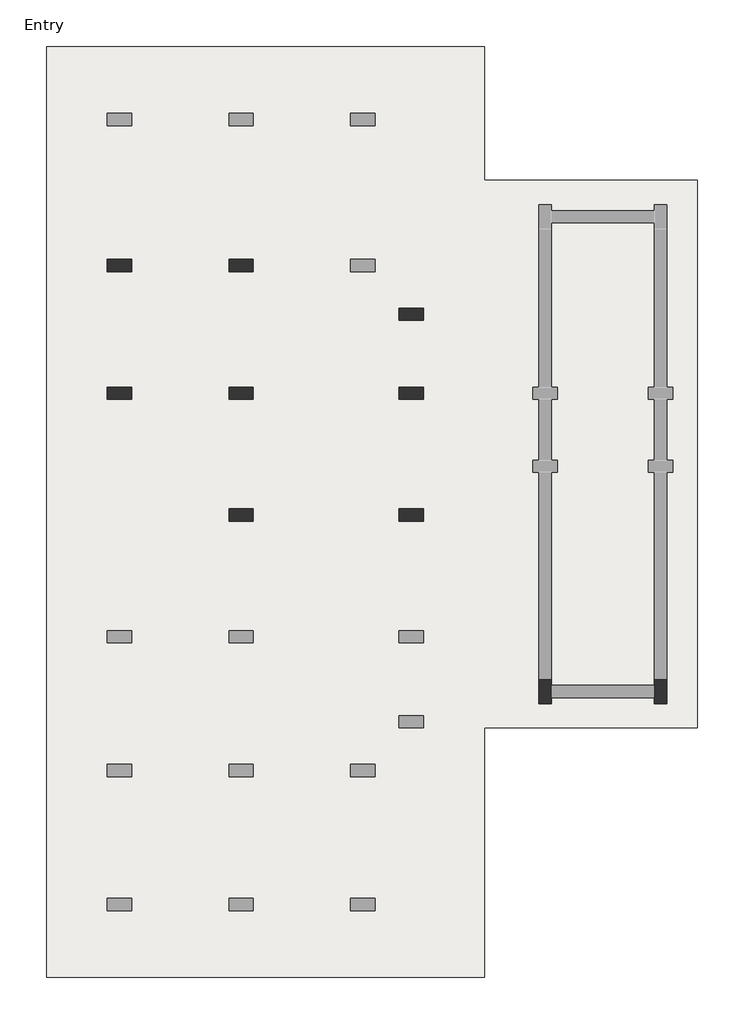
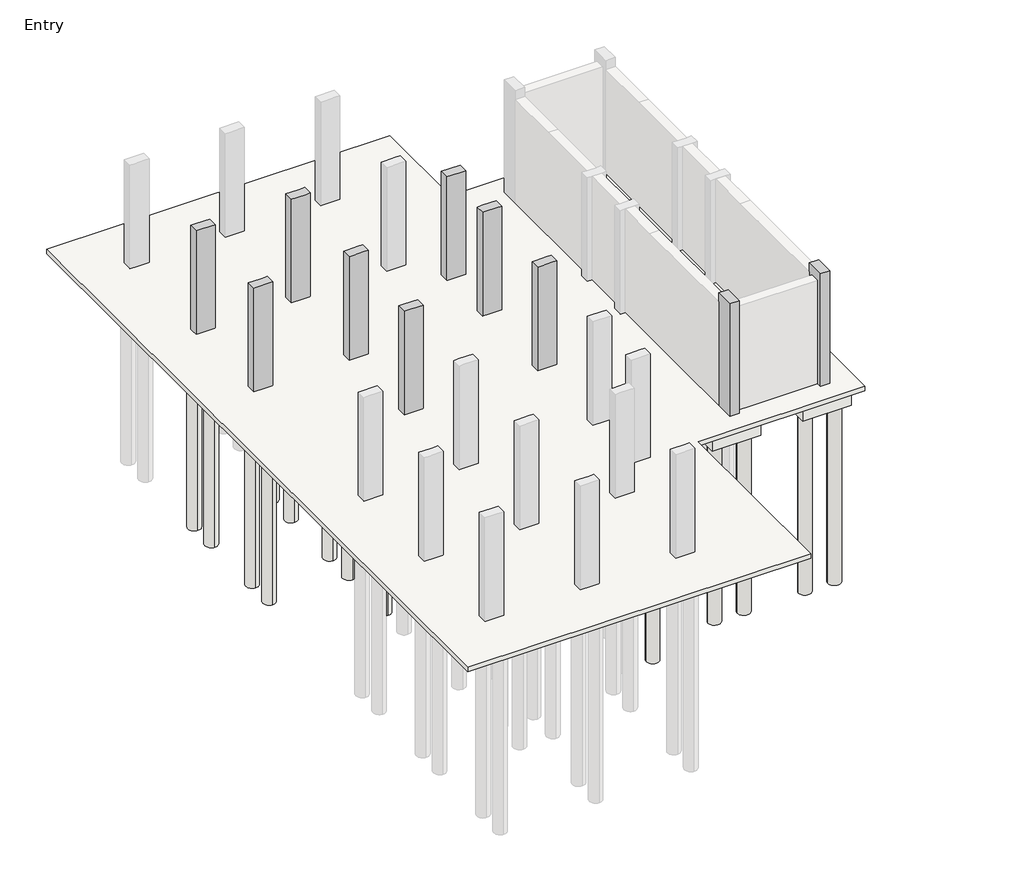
# One storey, part 2 of 3: 35 slabs, 10 columns, 3 footings.
"""IFC4 building model written with IfcOpenShell, lengths in millimetres."""

import ifcopenshell
import ifcopenshell.guid

model = None  # the IFC model being written
_history = None  # IfcOwnerHistory: only IFC2X3 demands one
_inside = {}  # id of a spatial element -> (the spatial element, [elements in it])
_under = {}  # id of a project, library or spatial element -> (it, [spatial elements below it])
_declared = {}  # id of a project -> (the project, [libraries it declares])
_typed = {}  # id of a type object -> (the type object, [elements of that type])
_made_of = {}  # id of a material, layer set ... -> (it, [elements and type objects made of it])


def new_model(schema):
    """Start an empty IFC model of exactly this schema.

    Asked for "IFC4X3", IfcOpenShell would pick the latest addendum, in which some entities
    have other attributes; the version numbers below select the first issue.
    IFC2X3 requires an IfcOwnerHistory on every rooted entity: one is made here for all.
    """
    global model, _history
    if schema == "IFC4X3":
        model = ifcopenshell.file(schema_version=(4, 3, 0, 0))
    else:
        model = ifcopenshell.file(schema=schema)
    _inside.clear()
    _under.clear()
    _declared.clear()
    _typed.clear()
    _made_of.clear()
    _history = None
    if model.schema == "IFC2X3":
        org = make("IfcOrganization", Name="unknown")
        user = make(
            "IfcPersonAndOrganization",
            ThePerson=make("IfcPerson", FamilyName="unknown"),
            TheOrganization=org,
        )
        app = make(
            "IfcApplication",
            ApplicationDeveloper=org,
            Version="unknown",
            ApplicationFullName="unknown",
            ApplicationIdentifier="unknown",
        )
        _history = make(
            "IfcOwnerHistory",
            OwningUser=user,
            OwningApplication=app,
            ChangeAction="ADDED",
            CreationDate=0,
        )
    return model


def make(cls, **values):
    """One entity of the class cls with the attributes given. An attribute that is None is left unset."""
    return model.create_entity(
        cls, **{name: value for name, value in values.items() if value is not None}
    )


def rooted(cls, **values):
    """An entity with a GlobalId (a new one), such as an element, a storey or a relation."""
    return make(cls, GlobalId=ifcopenshell.guid.new(), OwnerHistory=_history, **values)


def si_unit(unit_type, name, prefix=None):
    """IfcSIUnit, for example si_unit("LENGTHUNIT", "METRE", prefix="MILLI")."""
    return make("IfcSIUnit", UnitType=unit_type, Prefix=prefix, Name=name)


def assignment(units):
    """IfcUnitAssignment: the units of a project."""
    return None if units is None else make("IfcUnitAssignment", Units=units)


def point(xyz):
    """IfcCartesianPoint."""
    return None if xyz is None else make("IfcCartesianPoint", Coordinates=xyz)


def direction(xyz):
    """IfcDirection."""
    return None if xyz is None else make("IfcDirection", DirectionRatios=xyz)


def frame(location, z_axis=None, x_axis=None):
    """IfcAxis2Placement3D, a coordinate frame: its origin and axes. An axis left out is left unset."""
    return make(
        "IfcAxis2Placement3D",
        Location=point(location),
        Axis=direction(z_axis),
        RefDirection=direction(x_axis),
    )


def frame_2d(location, x_axis=None):
    """IfcAxis2Placement2D, a coordinate frame in the plane: its origin and x axis."""
    return make(
        "IfcAxis2Placement2D", Location=point(location), RefDirection=direction(x_axis)
    )


def origin():
    """The frame at (0, 0, 0) with its axes left unset."""
    return frame((0.0, 0.0, 0.0))


def place(relative_to, where):
    """IfcLocalPlacement: puts the frame where relative to a parent placement (None: the world)."""
    return make(
        "IfcLocalPlacement", PlacementRelTo=relative_to, RelativePlacement=where
    )


def context(
    kind, dimensions, precision=None, world=None, true_north=None, identifier=None
):
    """IfcGeometricRepresentationContext, for example the 3D "Model" context."""
    return make(
        "IfcGeometricRepresentationContext",
        ContextIdentifier=identifier,
        ContextType=kind,
        CoordinateSpaceDimension=dimensions,
        Precision=precision,
        WorldCoordinateSystem=world,
        TrueNorth=true_north,
    )


def project(units=None, contexts=None):
    """IfcProject with its units and contexts."""
    return rooted(
        "IfcProject",
        Name="project",
        RepresentationContexts=contexts,
        UnitsInContext=assignment(units),
    )


def spatial(cls, under=None, at=None, **own):
    """A site, building, storey or space (cls), placed at a placement, below another one or the project."""
    s = rooted(cls, ObjectPlacement=at, **own)
    if under is not None:
        _under.setdefault(under.id(), (under, []))[1].append(s)
    return s


def polyline(points):
    """IfcPolyline through the points."""
    return make("IfcPolyline", Points=[point(p) for p in points])


def circle_curve(where, radius):
    """IfcCircle in the frame where."""
    return make("IfcCircle", Position=where, Radius=radius)


def trimmed(basis, trim1, trim2, sense, master):
    """IfcTrimmedCurve: the piece of a basis curve between two trims."""
    return make(
        "IfcTrimmedCurve",
        BasisCurve=basis,
        Trim1=trim1,
        Trim2=trim2,
        SenseAgreement=sense,
        MasterRepresentation=master,
    )


def segment(curve, same_sense, transition):
    """IfcCompositeCurveSegment."""
    return make(
        "IfcCompositeCurveSegment",
        Transition=transition,
        SameSense=same_sense,
        ParentCurve=curve,
    )


def composite_curve(segments, self_intersect=None):
    """IfcCompositeCurve: segments joined end to end."""
    return make("IfcCompositeCurve", Segments=segments, SelfIntersect=self_intersect)


def outline(outer, holes=None, kind="AREA"):
    """IfcArbitraryClosedProfileDef: a profile drawn as a closed curve; with holes, ...WithVoids."""
    if holes is None:
        return make("IfcArbitraryClosedProfileDef", ProfileType=kind, OuterCurve=outer)
    return make(
        "IfcArbitraryProfileDefWithVoids",
        ProfileType=kind,
        OuterCurve=outer,
        InnerCurves=holes,
    )


def extrude(swept, where, along, depth):
    """IfcExtrudedAreaSolid: the profile swept, set in the frame where, extruded along a direction by depth."""
    return make(
        "IfcExtrudedAreaSolid",
        SweptArea=swept,
        Position=where,
        ExtrudedDirection=direction(along),
        Depth=depth,
    )


def faces_of(points, faces, orient=None, outer=None):
    """IfcFace entities. A face is a list of loops; a loop is a list of indices into points, from 0.

    orient and outer hold one flag for each loop. By default every Orientation is true, the
    first loop of a face is its IfcFaceOuterBound and the others are IfcFaceBound.
    """
    made = []
    for i, loops in enumerate(faces):
        bounds = []
        for j, loop in enumerate(loops):
            is_outer = j == 0 if outer is None else outer[i][j]
            bounds.append(
                make(
                    "IfcFaceOuterBound" if is_outer else "IfcFaceBound",
                    Bound=make("IfcPolyLoop", Polygon=[points[k] for k in loop]),
                    Orientation=True if orient is None else orient[i][j],
                )
            )
        made.append(make("IfcFace", Bounds=bounds))
    return made


def faceted_brep(points, faces, orient=None, outer=None, voids=None):
    """IfcFacetedBrep: a solid bounded by flat faces; with voids (closed shells), ...WithVoids."""
    shared = [point(p) for p in points]
    hull = make("IfcClosedShell", CfsFaces=faces_of(shared, faces, orient, outer))
    if voids is None:
        return make("IfcFacetedBrep", Outer=hull)
    return make(
        "IfcFacetedBrepWithVoids",
        Outer=hull,
        Voids=[
            make(cls, CfsFaces=faces_of(shared, fs, o, b)) for cls, fs, o, b in voids
        ],
    )


def shape(context_of_items, identifier, shape_type, items):
    """IfcShapeRepresentation: the items that make up one representation, for example the "Body"."""
    return make(
        "IfcShapeRepresentation",
        ContextOfItems=context_of_items,
        RepresentationIdentifier=identifier,
        RepresentationType=shape_type,
        Items=items,
    )


def made_of(thing, what):
    """Note that an element or type object is made of a material, layer set ...; save() writes the relation."""
    if what is not None:
        _made_of.setdefault(what.id(), (what, []))[1].append(thing)
    return thing


def element(
    cls,
    number,
    at=None,
    inside=None,
    cuts=None,
    type_object=None,
    material=None,
    context=None,
    identifier="Body",
    shape_type=None,
    held_by="IfcProductDefinitionShape",
    body=None,
    shapes=None,
    **own,
):
    """One element of the class cls, such as IfcWall. Its Tag is "e" and its number.

    at: its placement. inside: the storey or other place that contains it. cuts: it is an
    opening in that element (IfcRelVoidsElement). A single representation is given by context,
    identifier, shape_type and body (its items); several are given by shapes. held_by: the class
    of the entity that holds the representations. save() writes the other relations.
    """
    e = rooted(cls, Tag="e%d" % number, ObjectPlacement=at, **own)
    if body is not None:
        shapes = [shape(context, identifier, shape_type, body)]
    if shapes is not None:
        e.Representation = make(held_by, Representations=shapes)
    if inside is not None:
        _inside.setdefault(inside.id(), (inside, []))[1].append(e)
    if cuts is not None:
        rooted(
            "IfcRelVoidsElement", RelatingBuildingElement=cuts, RelatedOpeningElement=e
        )
    if type_object is not None:
        _typed.setdefault(type_object.id(), (type_object, []))[1].append(e)
    return made_of(e, material)


def aggregate(whole, parts):
    """IfcRelAggregates: a whole, such as a stair, and the parts it consists of."""
    return rooted("IfcRelAggregates", RelatingObject=whole, RelatedObjects=parts)


def save(model, path):
    """Write the relations noted so far, then the file.

    IfcRelAggregates (storeys below a building ...), IfcRelContainedInSpatialStructure (elements
    in a storey), IfcRelDefinesByType, IfcRelAssociatesMaterial and IfcRelDeclares: one each for
    every whole, place, type object, material and project.
    """
    for whole, parts in _under.values():
        aggregate(whole, parts)
    for where, things in _inside.values():
        rooted(
            "IfcRelContainedInSpatialStructure",
            RelatedElements=things,
            RelatingStructure=where,
        )
    for kind, things in _typed.values():
        rooted("IfcRelDefinesByType", RelatedObjects=things, RelatingType=kind)
    for what, things in _made_of.values():
        rooted("IfcRelAssociatesMaterial", RelatedObjects=things, RelatingMaterial=what)
    for by, libraries in _declared.values():
        rooted("IfcRelDeclares", RelatingContext=by, RelatedDefinitions=libraries)
    model.write(path)


model = new_model("IFC4")

# Units and contexts
model_context = context("Model", 3, world=origin())
ifc_project = project(units=[si_unit("LENGTHUNIT", "METRE", prefix="MILLI")], contexts=[model_context])

# Site, building, storey
site = spatial("IfcSite", under=ifc_project)
building = spatial("IfcBuilding", under=site)
storey = spatial("IfcBuildingStorey", under=building, Name="Entry", Elevation=0.0)

# Columns
placement = place(None, origin())
element("IfcColumn", 1, ObjectType="Concrete-Rectangular-Column : 12 x 24", at=placement, inside=storey, context=model_context, shape_type="Brep", body=[
    faceted_brep([(-15967.1663981, 6616.5487848, 0.0), (-15357.5663981, 6616.5487848, 0.0), (-15357.5663981, 6311.7487848, 0.0), (-15967.1663981, 6311.7487848, 0.0), (-15967.1663981, 6616.5487848, 3505.2), (-15814.7663981, 6616.5487848, 3505.2), (-15509.9663981, 6616.5487848, 3505.2), (-15357.5663981, 6616.5487848, 3505.2), (-15357.5663981, 6616.5487848, 2895.6), (-15357.5663981, 6311.7487848, 3505.2), (-15357.5663981, 6311.7487848, 2895.6), (-15509.9663981, 6311.7487848, 3505.2), (-15814.7663981, 6311.7487848, 3505.2), (-15967.1663981, 6311.7487848, 3505.2)], [[[0, 1, 2, 3]], [[4, 5, 6, 7, 8, 1, 0]], [[7, 9, 10, 2, 1, 8]], [[9, 11, 12, 13, 3, 2, 10]], [[13, 4, 0, 3]], [[4, 13, 12, 11, 9, 7, 6, 5]]]),
])
element("IfcColumn", 2, ObjectType="Concrete-Rectangular-Column : 12 x 24", at=placement, inside=storey, context=model_context, shape_type="Brep", body=[
    faceted_brep([(-15967.1663981, 3416.1487848, 0.0), (-15357.5663981, 3416.1487848, 0.0), (-15357.5663981, 3111.3487848, 0.0), (-15967.1663981, 3111.3487848, 0.0), (-15967.1663981, 3416.1487848, 3505.2), (-15814.7663981, 3416.1487848, 3505.2), (-15509.9663981, 3416.1487848, 3505.2), (-15357.5663981, 3416.1487848, 3505.2), (-15357.5663981, 3416.1487848, 2895.6), (-15357.5663981, 3111.3487848, 3505.2), (-15357.5663981, 3111.3487848, 2895.6), (-15967.1663981, 3111.3487848, 3505.2)], [[[0, 1, 2, 3]], [[4, 5, 6, 7, 8, 1, 0]], [[7, 9, 10, 2, 1, 8]], [[9, 11, 3, 2, 10]], [[11, 4, 0, 3]], [[4, 11, 9, 7, 6, 5]]]),
])
element("IfcColumn", 3, ObjectType="Concrete-Rectangular-Column : 12 x 24", at=placement, inside=storey, context=model_context, shape_type="Brep", body=[
    faceted_brep([(-12919.1663981, 368.1487848, 0.0), (-12309.5663981, 368.1487848, 0.0), (-12309.5663981, 63.3487848, 0.0), (-12919.1663981, 63.3487848, 0.0), (-12919.1663981, 368.1487848, 3505.2), (-12766.7663981, 368.1487848, 3505.2), (-12461.9663981, 368.1487848, 3505.2), (-12309.5663981, 368.1487848, 3505.2), (-12309.5663981, 368.1487848, 2895.6), (-12309.5663981, 63.3487848, 3505.2), (-12309.5663981, 63.3487848, 2895.6), (-12461.9663981, 63.3487848, 3505.2), (-12766.7663981, 63.3487848, 3505.2), (-12919.1663981, 63.3487848, 3505.2)], [[[0, 1, 2, 3]], [[4, 5, 6, 7, 8, 1, 0]], [[7, 9, 10, 2, 1, 8]], [[9, 11, 12, 13, 3, 2, 10]], [[13, 4, 0, 3]], [[4, 13, 12, 11, 9, 7, 6, 5]]]),
])
element("IfcColumn", 4, ObjectType="Concrete-Rectangular-Column : 12 x 24", at=placement, inside=storey, context=model_context, shape_type="Brep", body=[
    faceted_brep([(-12919.1663981, 3416.1487848, 0.0), (-12309.5663981, 3416.1487848, 0.0), (-12309.5663981, 3111.3487848, 0.0), (-12919.1663981, 3111.3487848, 0.0), (-12919.1663981, 3416.1487848, 3505.2), (-12766.7663981, 3416.1487848, 3505.2), (-12461.9663981, 3416.1487848, 3505.2), (-12309.5663981, 3416.1487848, 3505.2), (-12309.5663981, 3416.1487848, 2895.6), (-12919.1663981, 3416.1487848, 2895.6), (-12309.5663981, 3111.3487848, 3505.2), (-12309.5663981, 3111.3487848, 2895.6), (-12461.9663981, 3111.3487848, 3505.2), (-12766.7663981, 3111.3487848, 3505.2), (-12919.1663981, 3111.3487848, 3505.2), (-12919.1663981, 3111.3487848, 2895.6)], [[[0, 1, 2, 3]], [[4, 5, 6, 7, 8, 1, 0, 9]], [[7, 10, 11, 2, 1, 8]], [[10, 12, 13, 14, 15, 3, 2, 11]], [[14, 4, 9, 0, 3, 15]], [[4, 14, 13, 12, 10, 7, 6, 5]]]),
])
element("IfcColumn", 5, ObjectType="Concrete-Rectangular-Column : 12 x 24", at=placement, inside=storey, context=model_context, shape_type="Brep", body=[
    faceted_brep([(-12919.1663981, 6616.5487848, 0.0), (-12309.5663981, 6616.5487848, 0.0), (-12309.5663981, 6311.7487848, 0.0), (-12919.1663981, 6311.7487848, 0.0), (-12919.1663981, 6616.5487848, 3505.2), (-12766.7663981, 6616.5487848, 3505.2), (-12461.9663981, 6616.5487848, 3505.2), (-12309.5663981, 6616.5487848, 3505.2), (-12309.5663981, 6616.5487848, 2895.6), (-12919.1663981, 6616.5487848, 2895.6), (-12309.5663981, 6311.7487848, 3505.2), (-12309.5663981, 6311.7487848, 2895.6), (-12461.9663981, 6311.7487848, 3505.2), (-12766.7663981, 6311.7487848, 3505.2), (-12919.1663981, 6311.7487848, 3505.2), (-12919.1663981, 6311.7487848, 2895.6)], [[[0, 1, 2, 3]], [[4, 5, 6, 7, 8, 1, 0, 9]], [[7, 10, 11, 2, 1, 8]], [[10, 12, 13, 14, 15, 3, 2, 11]], [[14, 4, 9, 0, 3, 15]], [[4, 14, 13, 12, 10, 7, 6, 5]]]),
])
element("IfcColumn", 6, ObjectType="Concrete-Rectangular-Column : 12 x 24", at=placement, inside=storey, context=model_context, shape_type="Brep", body=[
    faceted_brep([(-8651.9663981, 5397.3487848, 0.0), (-8042.3663981, 5397.3487848, 0.0), (-8042.3663981, 5092.5487848, 0.0), (-8651.9663981, 5092.5487848, 0.0), (-8651.9663981, 5397.3487848, 3505.2), (-8042.3663981, 5397.3487848, 3505.2), (-8651.9663981, 5397.3487848, 2895.6), (-8042.3663981, 5092.5487848, 3505.2), (-8194.7663981, 5092.5487848, 3505.2), (-8499.5663981, 5092.5487848, 3505.2), (-8651.9663981, 5092.5487848, 3505.2), (-8651.9663981, 5092.5487848, 2895.6)], [[[0, 1, 2, 3]], [[4, 5, 1, 0, 6]], [[5, 7, 2, 1]], [[7, 8, 9, 10, 11, 3, 2]], [[10, 4, 6, 0, 3, 11]], [[4, 10, 9, 8, 7, 5]]]),
])
element("IfcColumn", 7, ObjectType="Concrete-Rectangular-Column : 12 x 24", at=placement, inside=storey, context=model_context, shape_type="Brep", body=[
    faceted_brep([(-8651.9663981, 3416.1487848, 0.0), (-8042.3663981, 3416.1487848, 0.0), (-8042.3663981, 3111.3487848, 0.0), (-8651.9663981, 3111.3487848, 0.0), (-8651.9663981, 3416.1487848, 3505.2), (-8499.5663981, 3416.1487848, 3505.2), (-8194.7663981, 3416.1487848, 3505.2), (-8042.3663981, 3416.1487848, 3505.2), (-8042.3663981, 3416.1487848, 2895.6), (-8651.9663981, 3416.1487848, 2895.6), (-8042.3663981, 3111.3487848, 3505.2), (-8042.3663981, 3111.3487848, 2895.6), (-8194.7663981, 3111.3487848, 3505.2), (-8499.5663981, 3111.3487848, 3505.2), (-8651.9663981, 3111.3487848, 3505.2), (-8651.9663981, 3111.3487848, 2895.6)], [[[0, 1, 2, 3]], [[4, 5, 6, 7, 8, 1, 0, 9]], [[7, 10, 11, 2, 1, 8]], [[10, 12, 13, 14, 15, 3, 2, 11]], [[14, 4, 9, 0, 3, 15]], [[4, 14, 13, 12, 10, 7, 6, 5]]]),
])
element("IfcColumn", 8, ObjectType="Concrete-Rectangular-Column : 12 x 24", at=placement, inside=storey, context=model_context, shape_type="Brep", body=[
    faceted_brep([(-8651.9663981, 368.1487848, 0.0), (-8042.3663981, 368.1487848, 0.0), (-8042.3663981, 63.3487848, 0.0), (-8651.9663981, 63.3487848, 0.0), (-8651.9663981, 368.1487848, 3505.2), (-8499.5663981, 368.1487848, 3505.2), (-8194.7663981, 368.1487848, 3505.2), (-8042.3663981, 368.1487848, 3505.2), (-8651.9663981, 368.1487848, 2895.6), (-8042.3663981, 63.3487848, 3505.2), (-8194.7663981, 63.3487848, 3505.2), (-8499.5663981, 63.3487848, 3505.2), (-8651.9663981, 63.3487848, 3505.2), (-8651.9663981, 63.3487848, 2895.6)], [[[0, 1, 2, 3]], [[4, 5, 6, 7, 1, 0, 8]], [[7, 9, 2, 1]], [[9, 10, 11, 12, 13, 3, 2]], [[12, 4, 8, 0, 3, 13]], [[4, 12, 11, 10, 9, 7, 6, 5]]]),
])
element("IfcColumn", 9, ObjectType="Concrete-Rectangular-Column : 12 x 24", at=placement, inside=storey, context=model_context, shape_type="Brep", body=[
    faceted_brep([(-5146.7663981, -4508.6512152, 0.0), (-5146.7663981, -3899.0512152, 0.0), (-4841.9663981, -3899.0512152, 0.0), (-4841.9663981, -4051.4512152, 0.0), (-4841.9663981, -4356.2512152, 0.0), (-4841.9663981, -4508.6512152, 0.0), (-5146.7663981, -4508.6512152, 3810.0), (-5146.7663981, -3899.0512152, 3810.0), (-5146.7663981, -3899.0512152, 3505.2), (-4841.9663981, -3899.0512152, 3810.0), (-4841.9663981, -3899.0512152, 3505.2), (-4841.9663981, -4508.6512152, 3810.0)], [[[0, 1, 2, 3, 4, 5]], [[6, 7, 8, 1, 0]], [[7, 9, 10, 2, 1, 8]], [[9, 11, 5, 4, 3, 2, 10]], [[11, 6, 0, 5]], [[6, 11, 9, 7]]]),
])
element("IfcColumn", 10, ObjectType="Concrete-Rectangular-Column : 12 x 24", at=placement, inside=storey, context=model_context, shape_type="Brep", body=[
    faceted_brep([(-2251.1663981, -4508.6512152, 0.0), (-2251.1663981, -4356.2512152, 0.0), (-2251.1663981, -4051.4512152, 0.0), (-2251.1663981, -3899.0512152, 0.0), (-1946.3663981, -3899.0512152, 0.0), (-1946.3663981, -4508.6512152, 0.0), (-2251.1663981, -4508.6512152, 3810.0), (-2251.1663981, -3899.0512152, 3810.0), (-2251.1663981, -3899.0512152, 3505.2), (-1946.3663981, -3899.0512152, 3810.0), (-1946.3663981, -3899.0512152, 3505.2), (-1946.3663981, -4508.6512152, 3810.0)], [[[0, 1, 2, 3, 4, 5]], [[6, 7, 8, 3, 2, 1, 0]], [[7, 9, 10, 4, 3, 8]], [[9, 11, 5, 4, 10]], [[11, 6, 0, 5]], [[6, 11, 9, 7]]]),
])

# Footings
element("IfcFooting", 11, ObjectType="Bearing Footing - 36\" x 12\"", at=placement, inside=storey, context=model_context, shape_type="Brep", body=[
    faceted_brep([(-5400.7663981, 1282.5487848, -304.8), (-5451.5663981, 1282.5487848, -304.8), (-5451.5663981, 1282.5487848, -152.4), (-5400.7663981, 1282.5487848, -152.4), (-4537.1663981, 1282.5487848, -304.8), (-4587.9663981, 1282.5487848, -304.8), (-4587.9663981, 1282.5487848, -152.4), (-4537.1663981, 1282.5487848, -152.4), (-4537.1663981, -3797.4512152, -304.8), (-4537.1663981, -3746.6512152, -304.8), (-4537.1663981, -3746.6512152, -152.4), (-4537.1663981, -3797.4512152, -152.4), (-5400.7663981, 660.2487848, -304.8), (-4587.9663981, 660.2487848, -304.8), (-5451.5663981, -3797.4512152, -304.8), (-5451.5663981, -3797.4512152, -152.4), (-5400.7663981, 660.2487848, -152.4), (-4587.9663981, 660.2487848, -152.4)], [[[0, 1, 2, 3]], [[4, 5, 6, 7]], [[8, 9, 4, 7, 10, 11]], [[1, 0, 12, 13, 5, 4, 9, 8, 14]], [[1, 14, 15, 2]], [[12, 0, 3, 16]], [[13, 12, 16, 17]], [[5, 13, 17, 6]], [[14, 8, 11, 15]], [[7, 6, 17, 16, 3, 2, 15, 11, 10]]]),
])
element("IfcFooting", 12, ObjectType="Bearing Footing - 36\" x 12\"", at=placement, inside=storey, context=model_context, shape_type="Brep", body=[
    faceted_brep([(-2505.1663981, 1282.5487848, -304.8), (-2555.9663981, 1282.5487848, -304.8), (-2555.9663981, 1282.5487848, -152.4), (-2505.1663981, 1282.5487848, -152.4), (-1641.5663981, 1282.5487848, -304.8), (-1692.3663981, 1282.5487848, -304.8), (-1692.3663981, 1282.5487848, -152.4), (-1641.5663981, 1282.5487848, -152.4), (-1641.5663981, -3797.4512152, -304.8), (-1641.5663981, -3797.4512152, -152.4), (-2505.1663981, 660.2487848, -304.8), (-1692.3663981, 660.2487848, -304.8), (-2555.9663981, -3797.4512152, -304.8), (-2555.9663981, -3746.6512152, -304.8), (-2555.9663981, -3797.4512152, -152.4), (-2555.9663981, -3746.6512152, -152.4), (-2505.1663981, 660.2487848, -152.4), (-1692.3663981, 660.2487848, -152.4)], [[[0, 1, 2, 3]], [[4, 5, 6, 7]], [[8, 4, 7, 9]], [[1, 0, 10, 11, 5, 4, 8, 12, 13]], [[1, 13, 12, 14, 15, 2]], [[10, 0, 3, 16]], [[11, 10, 16, 17]], [[5, 11, 17, 6]], [[12, 8, 9, 14]], [[7, 6, 17, 16, 3, 2, 15, 14, 9]]]),
])
element("IfcFooting", 13, ObjectType="Bearing Footing - 36\" x 12\"", at=placement, inside=storey, context=model_context, shape_type="SweptSolid", body=[
    extrude(outline(polyline([(-2251.1663981, -4661.0512152), (-4841.9663981, -4661.0512152), (-4841.9663981, -4610.2512152), (-4219.6663981, -4610.2512152), (-4219.6663981, -3797.4512152), (-4537.1663981, -3797.4512152), (-4537.1663981, -3746.6512152), (-2555.9663981, -3746.6512152), (-2555.9663981, -3797.4512152), (-2873.4663981, -3797.4512152), (-2873.4663981, -4610.2512152), (-2251.1663981, -4610.2512152), (-2251.1663981, -4661.0512152)])), frame((0.0, 0.0, -304.8), z_axis=(0.0, 0.0, 1.0), x_axis=(1.0, 0.0, 0.0)), (0.0, 0.0, 1.0), 152.4),
])

# Slabs
element("IfcSlab", 14, ObjectType="6\" Foundation Slab", at=placement, inside=storey, context=model_context, shape_type="SweptSolid", body=[
    extrude(outline(polyline([(-6518.3663981, 11950.5487848), (-6518.3663981, 8597.7487848), (-1184.3663981, 8597.7487848), (-1184.3663981, -5118.2512152), (-6518.3663981, -5118.2512152), (-6518.3663981, -11366.6512152), (-17491.1663981, -11366.6512152), (-17491.1663981, 11950.5487848), (-6518.3663981, 11950.5487848)])), frame((0.0, 0.0, -152.4), z_axis=(0.0, 0.0, 1.0), x_axis=(1.0, 0.0, 0.0)), (0.0, 0.0, 1.0), 152.4),
])
element("IfcSlab", 15, ObjectType="Pile Cap-2 Pile : 31\"x61\"x35\"", at=placement, inside=storey, context=model_context, shape_type="SweptSolid", body=[
    extrude(outline(polyline([(-16068.7663981, 7238.8487848), (-15255.9663981, 7238.8487848), (-15255.9663981, 5689.4487848), (-16068.7663981, 5689.4487848), (-16068.7663981, 7238.8487848)])), frame((0.0, 0.0, -889.0), z_axis=(0.0, 0.0, 1.0), x_axis=(1.0, 0.0, 0.0)), (0.0, 0.0, 1.0), 736.6),
])
element("IfcSlab", 16, ObjectType="Pile Cap-2 Pile : 31\"x61\"x35\"", at=placement, inside=storey, context=model_context, shape_type="SweptSolid", body=[
    extrude(outline(polyline([(-16068.7663981, 4038.4487848), (-15255.9663981, 4038.4487848), (-15255.9663981, 2489.0487848), (-16068.7663981, 2489.0487848), (-16068.7663981, 4038.4487848)])), frame((0.0, 0.0, -889.0), z_axis=(0.0, 0.0, 1.0), x_axis=(1.0, 0.0, 0.0)), (0.0, 0.0, 1.0), 736.6),
])
element("IfcSlab", 17, ObjectType="Pile Cap-2 Pile : 31\"x61\"x35\"", at=placement, inside=storey, context=model_context, shape_type="SweptSolid", body=[
    extrude(outline(polyline([(-8753.5663981, 990.4487848), (-7940.7663981, 990.4487848), (-7940.7663981, -558.9512152), (-8753.5663981, -558.9512152), (-8753.5663981, 990.4487848)])), frame((0.0, 0.0, -889.0), z_axis=(0.0, 0.0, 1.0), x_axis=(1.0, 0.0, 0.0)), (0.0, 0.0, 1.0), 736.6),
])
element("IfcSlab", 18, ObjectType="Pile Cap-2 Pile : 31\"x61\"x35\"", at=placement, inside=storey, context=model_context, shape_type="SweptSolid", body=[
    extrude(outline(polyline([(-8753.5663981, 4038.4487848), (-7940.7663981, 4038.4487848), (-7940.7663981, 2489.0487848), (-8753.5663981, 2489.0487848), (-8753.5663981, 4038.4487848)])), frame((0.0, 0.0, -889.0), z_axis=(0.0, 0.0, 1.0), x_axis=(1.0, 0.0, 0.0)), (0.0, 0.0, 1.0), 736.6),
])
element("IfcSlab", 19, ObjectType="Pile Cap-2 Pile : 31\"x61\"x35\"", at=placement, inside=storey, context=model_context, shape_type="Brep", body=[
    faceted_brep([(-5769.0663981, -4610.2512152, -889.0), (-5769.0663981, -3797.4512152, -889.0), (-4219.6663981, -3797.4512152, -889.0), (-4219.6663981, -4610.2512152, -889.0), (-4219.6663981, -4610.2512152, -304.8), (-4219.6663981, -4610.2512152, -152.4), (-4841.9663981, -4610.2512152, -152.4), (-5769.0663981, -4610.2512152, -152.4), (-4219.6663981, -3797.4512152, -304.8), (-4219.6663981, -3797.4512152, -152.4), (-5769.0663981, -3797.4512152, -152.4), (-5451.5663981, -3797.4512152, -152.4), (-4537.1663981, -3797.4512152, -152.4)], [[[0, 1, 2, 3]], [[0, 3, 4, 5, 6, 7]], [[3, 2, 8, 9, 5, 4]], [[2, 1, 10, 11, 12, 9, 8]], [[1, 0, 7, 10]], [[7, 6, 5, 9, 12, 11, 10]]]),
])
element("IfcSlab", 20, ObjectType="Pile Cap-2 Pile : 31\"x61\"x35\"", at=placement, inside=storey, context=model_context, shape_type="Brep", body=[
    faceted_brep([(-2873.4663981, -4610.2512152, -889.0), (-2873.4663981, -3797.4512152, -889.0), (-1324.0663981, -3797.4512152, -889.0), (-1324.0663981, -4610.2512152, -889.0), (-1324.0663981, -4610.2512152, -152.4), (-2251.1663981, -4610.2512152, -152.4), (-2873.4663981, -4610.2512152, -152.4), (-2873.4663981, -4610.2512152, -304.8), (-1324.0663981, -3797.4512152, -152.4), (-2873.4663981, -3797.4512152, -304.8), (-2873.4663981, -3797.4512152, -152.4), (-2555.9663981, -3797.4512152, -152.4), (-1641.5663981, -3797.4512152, -152.4)], [[[0, 1, 2, 3]], [[0, 3, 4, 5, 6, 7]], [[3, 2, 8, 4]], [[2, 1, 9, 10, 11, 12, 8]], [[1, 0, 7, 6, 10, 9]], [[6, 5, 4, 8, 12, 11, 10]]]),
])
element("IfcSlab", 21, ObjectType="Pile Cap-2 Pile : 31\"x61\"x35\"", at=placement, inside=storey, context=model_context, shape_type="SweptSolid", body=[
    extrude(outline(polyline([(-9121.8663981, 4838.5487848), (-9121.8663981, 5651.3487848), (-7572.4663981, 5651.3487848), (-7572.4663981, 4838.5487848), (-9121.8663981, 4838.5487848)])), frame((0.0, 0.0, -889.0), z_axis=(0.0, 0.0, 1.0), x_axis=(1.0, 0.0, 0.0)), (0.0, 0.0, 1.0), 736.6),
])
element("IfcSlab", 22, ObjectType="Pile Cap-4 Pile : 72\"x72\"x35\"", at=placement, inside=storey, context=model_context, shape_type="SweptSolid", body=[
    extrude(outline(polyline([(-13528.7663981, 7378.5487848), (-11699.9663981, 7378.5487848), (-11699.9663981, 5549.7487848), (-13528.7663981, 5549.7487848), (-13528.7663981, 7378.5487848)])), frame((0.0, 0.0, -889.0), z_axis=(0.0, 0.0, 1.0), x_axis=(1.0, 0.0, 0.0)), (0.0, 0.0, 1.0), 736.6),
])
element("IfcSlab", 23, ObjectType="Pile Cap-4 Pile : 72\"x72\"x35\"", at=placement, inside=storey, context=model_context, shape_type="SweptSolid", body=[
    extrude(outline(polyline([(-13528.7663981, 4178.1487848), (-11699.9663981, 4178.1487848), (-11699.9663981, 2349.3487848), (-13528.7663981, 2349.3487848), (-13528.7663981, 4178.1487848)])), frame((0.0, 0.0, -889.0), z_axis=(0.0, 0.0, 1.0), x_axis=(1.0, 0.0, 0.0)), (0.0, 0.0, 1.0), 736.6),
])
element("IfcSlab", 24, ObjectType="Pile Cap-4 Pile : 72\"x72\"x35\"", at=placement, inside=storey, context=model_context, shape_type="SweptSolid", body=[
    extrude(outline(polyline([(-13528.7663981, 1130.1487848), (-11699.9663981, 1130.1487848), (-11699.9663981, -698.6512152), (-13528.7663981, -698.6512152), (-13528.7663981, 1130.1487848)])), frame((0.0, 0.0, -889.0), z_axis=(0.0, 0.0, 1.0), x_axis=(1.0, 0.0, 0.0)), (0.0, 0.0, 1.0), 736.6),
])
element("IfcSlab", 25, ObjectType="Pile-Steel Pipe : 16\" Diameter", at=placement, inside=storey, context=model_context, shape_type="SweptSolid", body=[
    extrude(outline(composite_curve([segment(trimmed(circle_curve(frame_2d((-13147.7663981, 5930.7487848)), 203.2), [point((-13147.7663981, 5727.5487848))], [point((-13147.7663981, 6133.9487848))], False, "CARTESIAN"), True, "CONTINUOUS"), segment(trimmed(circle_curve(frame_2d((-13147.7663981, 5930.7487848)), 203.2), [point((-13147.7663981, 6133.9487848))], [point((-13147.7663981, 5727.5487848))], False, "CARTESIAN"), True, "CONTINUOUS")], self_intersect=False)), frame((0.0, 0.0, -6985.0), z_axis=(0.0, 0.0, 1.0), x_axis=(1.0, 0.0, 0.0)), (0.0, 0.0, 1.0), 6096.0),
])
element("IfcSlab", 26, ObjectType="Pile-Steel Pipe : 16\" Diameter", at=placement, inside=storey, context=model_context, shape_type="SweptSolid", body=[
    extrude(outline(composite_curve([segment(trimmed(circle_curve(frame_2d((-12080.9663981, 5930.7487848)), 203.2), [point((-12080.9663981, 5727.5487848))], [point((-12080.9663981, 6133.9487848))], False, "CARTESIAN"), True, "CONTINUOUS"), segment(trimmed(circle_curve(frame_2d((-12080.9663981, 5930.7487848)), 203.2), [point((-12080.9663981, 6133.9487848))], [point((-12080.9663981, 5727.5487848))], False, "CARTESIAN"), True, "CONTINUOUS")], self_intersect=False)), frame((0.0, 0.0, -6985.0), z_axis=(0.0, 0.0, 1.0), x_axis=(1.0, 0.0, 0.0)), (0.0, 0.0, 1.0), 6096.0),
])
element("IfcSlab", 27, ObjectType="Pile-Steel Pipe : 16\" Diameter", at=placement, inside=storey, context=model_context, shape_type="SweptSolid", body=[
    extrude(outline(composite_curve([segment(trimmed(circle_curve(frame_2d((-12080.9663981, 6997.5487848)), 203.2), [point((-12080.9663981, 6794.3487848))], [point((-12080.9663981, 7200.7487848))], False, "CARTESIAN"), True, "CONTINUOUS"), segment(trimmed(circle_curve(frame_2d((-12080.9663981, 6997.5487848)), 203.2), [point((-12080.9663981, 7200.7487848))], [point((-12080.9663981, 6794.3487848))], False, "CARTESIAN"), True, "CONTINUOUS")], self_intersect=False)), frame((0.0, 0.0, -6985.0), z_axis=(0.0, 0.0, 1.0), x_axis=(1.0, 0.0, 0.0)), (0.0, 0.0, 1.0), 6096.0),
])
element("IfcSlab", 28, ObjectType="Pile-Steel Pipe : 16\" Diameter", at=placement, inside=storey, context=model_context, shape_type="SweptSolid", body=[
    extrude(outline(composite_curve([segment(trimmed(circle_curve(frame_2d((-13147.7663981, 6997.5487848)), 203.2), [point((-13147.7663981, 6794.3487848))], [point((-13147.7663981, 7200.7487848))], False, "CARTESIAN"), True, "CONTINUOUS"), segment(trimmed(circle_curve(frame_2d((-13147.7663981, 6997.5487848)), 203.2), [point((-13147.7663981, 7200.7487848))], [point((-13147.7663981, 6794.3487848))], False, "CARTESIAN"), True, "CONTINUOUS")], self_intersect=False)), frame((0.0, 0.0, -6985.0), z_axis=(0.0, 0.0, 1.0), x_axis=(1.0, 0.0, 0.0)), (0.0, 0.0, 1.0), 6096.0),
])
element("IfcSlab", 29, ObjectType="Pile-Steel Pipe : 16\" Diameter", at=placement, inside=storey, context=model_context, shape_type="SweptSolid", body=[
    extrude(outline(composite_curve([segment(trimmed(circle_curve(frame_2d((-13147.7663981, 2730.3487848)), 203.2), [point((-13147.7663981, 2527.1487848))], [point((-13147.7663981, 2933.5487848))], False, "CARTESIAN"), True, "CONTINUOUS"), segment(trimmed(circle_curve(frame_2d((-13147.7663981, 2730.3487848)), 203.2), [point((-13147.7663981, 2933.5487848))], [point((-13147.7663981, 2527.1487848))], False, "CARTESIAN"), True, "CONTINUOUS")], self_intersect=False)), frame((0.0, 0.0, -6985.0), z_axis=(0.0, 0.0, 1.0), x_axis=(1.0, 0.0, 0.0)), (0.0, 0.0, 1.0), 6096.0),
])
element("IfcSlab", 30, ObjectType="Pile-Steel Pipe : 16\" Diameter", at=placement, inside=storey, context=model_context, shape_type="SweptSolid", body=[
    extrude(outline(composite_curve([segment(trimmed(circle_curve(frame_2d((-12080.9663981, 2730.3487848)), 203.2), [point((-12080.9663981, 2527.1487848))], [point((-12080.9663981, 2933.5487848))], False, "CARTESIAN"), True, "CONTINUOUS"), segment(trimmed(circle_curve(frame_2d((-12080.9663981, 2730.3487848)), 203.2), [point((-12080.9663981, 2933.5487848))], [point((-12080.9663981, 2527.1487848))], False, "CARTESIAN"), True, "CONTINUOUS")], self_intersect=False)), frame((0.0, 0.0, -6985.0), z_axis=(0.0, 0.0, 1.0), x_axis=(1.0, 0.0, 0.0)), (0.0, 0.0, 1.0), 6096.0),
])
element("IfcSlab", 31, ObjectType="Pile-Steel Pipe : 16\" Diameter", at=placement, inside=storey, context=model_context, shape_type="SweptSolid", body=[
    extrude(outline(composite_curve([segment(trimmed(circle_curve(frame_2d((-12080.9663981, 3797.1487848)), 203.2), [point((-12080.9663981, 3593.9487848))], [point((-12080.9663981, 4000.3487848))], False, "CARTESIAN"), True, "CONTINUOUS"), segment(trimmed(circle_curve(frame_2d((-12080.9663981, 3797.1487848)), 203.2), [point((-12080.9663981, 4000.3487848))], [point((-12080.9663981, 3593.9487848))], False, "CARTESIAN"), True, "CONTINUOUS")], self_intersect=False)), frame((0.0, 0.0, -6985.0), z_axis=(0.0, 0.0, 1.0), x_axis=(1.0, 0.0, 0.0)), (0.0, 0.0, 1.0), 6096.0),
])
element("IfcSlab", 32, ObjectType="Pile-Steel Pipe : 16\" Diameter", at=placement, inside=storey, context=model_context, shape_type="SweptSolid", body=[
    extrude(outline(composite_curve([segment(trimmed(circle_curve(frame_2d((-13147.7663981, 3797.1487848)), 203.2), [point((-13147.7663981, 3593.9487848))], [point((-13147.7663981, 4000.3487848))], False, "CARTESIAN"), True, "CONTINUOUS"), segment(trimmed(circle_curve(frame_2d((-13147.7663981, 3797.1487848)), 203.2), [point((-13147.7663981, 4000.3487848))], [point((-13147.7663981, 3593.9487848))], False, "CARTESIAN"), True, "CONTINUOUS")], self_intersect=False)), frame((0.0, 0.0, -6985.0), z_axis=(0.0, 0.0, 1.0), x_axis=(1.0, 0.0, 0.0)), (0.0, 0.0, 1.0), 6096.0),
])
element("IfcSlab", 33, ObjectType="Pile-Steel Pipe : 16\" Diameter", at=placement, inside=storey, context=model_context, shape_type="SweptSolid", body=[
    extrude(outline(composite_curve([segment(trimmed(circle_curve(frame_2d((-12080.9663981, 749.1487848)), 203.2), [point((-12080.9663981, 545.9487848))], [point((-12080.9663981, 952.3487848))], False, "CARTESIAN"), True, "CONTINUOUS"), segment(trimmed(circle_curve(frame_2d((-12080.9663981, 749.1487848)), 203.2), [point((-12080.9663981, 952.3487848))], [point((-12080.9663981, 545.9487848))], False, "CARTESIAN"), True, "CONTINUOUS")], self_intersect=False)), frame((0.0, 0.0, -6985.0), z_axis=(0.0, 0.0, 1.0), x_axis=(1.0, 0.0, 0.0)), (0.0, 0.0, 1.0), 6096.0),
])
element("IfcSlab", 34, ObjectType="Pile-Steel Pipe : 16\" Diameter", at=placement, inside=storey, context=model_context, shape_type="SweptSolid", body=[
    extrude(outline(composite_curve([segment(trimmed(circle_curve(frame_2d((-13147.7663981, 749.1487848)), 203.2), [point((-13147.7663981, 545.9487848))], [point((-13147.7663981, 952.3487848))], False, "CARTESIAN"), True, "CONTINUOUS"), segment(trimmed(circle_curve(frame_2d((-13147.7663981, 749.1487848)), 203.2), [point((-13147.7663981, 952.3487848))], [point((-13147.7663981, 545.9487848))], False, "CARTESIAN"), True, "CONTINUOUS")], self_intersect=False)), frame((0.0, 0.0, -6985.0), z_axis=(0.0, 0.0, 1.0), x_axis=(1.0, 0.0, 0.0)), (0.0, 0.0, 1.0), 6096.0),
])
element("IfcSlab", 35, ObjectType="Pile-Steel Pipe : 16\" Diameter", at=placement, inside=storey, context=model_context, shape_type="SweptSolid", body=[
    extrude(outline(composite_curve([segment(trimmed(circle_curve(frame_2d((-15662.3663981, 5994.2487848)), 203.2), [point((-15662.3663981, 5791.0487848))], [point((-15662.3663981, 6197.4487848))], False, "CARTESIAN"), True, "CONTINUOUS"), segment(trimmed(circle_curve(frame_2d((-15662.3663981, 5994.2487848)), 203.2), [point((-15662.3663981, 6197.4487848))], [point((-15662.3663981, 5791.0487848))], False, "CARTESIAN"), True, "CONTINUOUS")], self_intersect=False)), frame((0.0, 0.0, -6985.0), z_axis=(0.0, 0.0, 1.0), x_axis=(1.0, 0.0, 0.0)), (0.0, 0.0, 1.0), 6096.0),
])
element("IfcSlab", 36, ObjectType="Pile-Steel Pipe : 16\" Diameter", at=placement, inside=storey, context=model_context, shape_type="SweptSolid", body=[
    extrude(outline(composite_curve([segment(trimmed(circle_curve(frame_2d((-15662.3663981, 6934.0487848)), 203.2), [point((-15662.3663981, 6730.8487848))], [point((-15662.3663981, 7137.2487848))], False, "CARTESIAN"), True, "CONTINUOUS"), segment(trimmed(circle_curve(frame_2d((-15662.3663981, 6934.0487848)), 203.2), [point((-15662.3663981, 7137.2487848))], [point((-15662.3663981, 6730.8487848))], False, "CARTESIAN"), True, "CONTINUOUS")], self_intersect=False)), frame((0.0, 0.0, -6985.0), z_axis=(0.0, 0.0, 1.0), x_axis=(1.0, 0.0, 0.0)), (0.0, 0.0, 1.0), 6096.0),
])
element("IfcSlab", 37, ObjectType="Pile-Steel Pipe : 16\" Diameter", at=placement, inside=storey, context=model_context, shape_type="SweptSolid", body=[
    extrude(outline(composite_curve([segment(trimmed(circle_curve(frame_2d((-15662.3663981, 2793.8487848)), 203.2), [point((-15662.3663981, 2590.6487848))], [point((-15662.3663981, 2997.0487848))], False, "CARTESIAN"), True, "CONTINUOUS"), segment(trimmed(circle_curve(frame_2d((-15662.3663981, 2793.8487848)), 203.2), [point((-15662.3663981, 2997.0487848))], [point((-15662.3663981, 2590.6487848))], False, "CARTESIAN"), True, "CONTINUOUS")], self_intersect=False)), frame((0.0, 0.0, -6985.0), z_axis=(0.0, 0.0, 1.0), x_axis=(1.0, 0.0, 0.0)), (0.0, 0.0, 1.0), 6096.0),
])
element("IfcSlab", 38, ObjectType="Pile-Steel Pipe : 16\" Diameter", at=placement, inside=storey, context=model_context, shape_type="SweptSolid", body=[
    extrude(outline(composite_curve([segment(trimmed(circle_curve(frame_2d((-15662.3663981, 3733.6487848)), 203.2), [point((-15662.3663981, 3530.4487848))], [point((-15662.3663981, 3936.8487848))], False, "CARTESIAN"), True, "CONTINUOUS"), segment(trimmed(circle_curve(frame_2d((-15662.3663981, 3733.6487848)), 203.2), [point((-15662.3663981, 3936.8487848))], [point((-15662.3663981, 3530.4487848))], False, "CARTESIAN"), True, "CONTINUOUS")], self_intersect=False)), frame((0.0, 0.0, -6985.0), z_axis=(0.0, 0.0, 1.0), x_axis=(1.0, 0.0, 0.0)), (0.0, 0.0, 1.0), 6096.0),
])
element("IfcSlab", 39, ObjectType="Pile-Steel Pipe : 16\" Diameter", at=placement, inside=storey, context=model_context, shape_type="SweptSolid", body=[
    extrude(outline(composite_curve([segment(trimmed(circle_curve(frame_2d((-9566.3663981, 5994.2487848)), 203.2), [point((-9566.3663981, 5791.0487848))], [point((-9566.3663981, 6197.4487848))], False, "CARTESIAN"), True, "CONTINUOUS"), segment(trimmed(circle_curve(frame_2d((-9566.3663981, 5994.2487848)), 203.2), [point((-9566.3663981, 6197.4487848))], [point((-9566.3663981, 5791.0487848))], False, "CARTESIAN"), True, "CONTINUOUS")], self_intersect=False)), frame((0.0, 0.0, -6985.0), z_axis=(0.0, 0.0, 1.0), x_axis=(1.0, 0.0, 0.0)), (0.0, 0.0, 1.0), 6096.0),
])
element("IfcSlab", 40, ObjectType="Pile-Steel Pipe : 16\" Diameter", at=placement, inside=storey, context=model_context, shape_type="SweptSolid", body=[
    extrude(outline(composite_curve([segment(trimmed(circle_curve(frame_2d((-8347.1663981, -254.1512152)), 203.2), [point((-8347.1663981, -457.3512152))], [point((-8347.1663981, -50.9512152))], False, "CARTESIAN"), True, "CONTINUOUS"), segment(trimmed(circle_curve(frame_2d((-8347.1663981, -254.1512152)), 203.2), [point((-8347.1663981, -50.9512152))], [point((-8347.1663981, -457.3512152))], False, "CARTESIAN"), True, "CONTINUOUS")], self_intersect=False)), frame((0.0, 0.0, -6985.0), z_axis=(0.0, 0.0, 1.0), x_axis=(1.0, 0.0, 0.0)), (0.0, 0.0, 1.0), 6096.0),
])
element("IfcSlab", 41, ObjectType="Pile-Steel Pipe : 16\" Diameter", at=placement, inside=storey, context=model_context, shape_type="SweptSolid", body=[
    extrude(outline(composite_curve([segment(trimmed(circle_curve(frame_2d((-8347.1663981, 685.6487848)), 203.2), [point((-8347.1663981, 482.4487848))], [point((-8347.1663981, 888.8487848))], False, "CARTESIAN"), True, "CONTINUOUS"), segment(trimmed(circle_curve(frame_2d((-8347.1663981, 685.6487848)), 203.2), [point((-8347.1663981, 888.8487848))], [point((-8347.1663981, 482.4487848))], False, "CARTESIAN"), True, "CONTINUOUS")], self_intersect=False)), frame((0.0, 0.0, -6985.0), z_axis=(0.0, 0.0, 1.0), x_axis=(1.0, 0.0, 0.0)), (0.0, 0.0, 1.0), 6096.0),
])
element("IfcSlab", 42, ObjectType="Pile-Steel Pipe : 16\" Diameter", at=placement, inside=storey, context=model_context, shape_type="SweptSolid", body=[
    extrude(outline(composite_curve([segment(trimmed(circle_curve(frame_2d((-8347.1663981, 2793.8487848)), 203.2), [point((-8347.1663981, 2590.6487848))], [point((-8347.1663981, 2997.0487848))], False, "CARTESIAN"), True, "CONTINUOUS"), segment(trimmed(circle_curve(frame_2d((-8347.1663981, 2793.8487848)), 203.2), [point((-8347.1663981, 2997.0487848))], [point((-8347.1663981, 2590.6487848))], False, "CARTESIAN"), True, "CONTINUOUS")], self_intersect=False)), frame((0.0, 0.0, -6985.0), z_axis=(0.0, 0.0, 1.0), x_axis=(1.0, 0.0, 0.0)), (0.0, 0.0, 1.0), 6096.0),
])
element("IfcSlab", 43, ObjectType="Pile-Steel Pipe : 16\" Diameter", at=placement, inside=storey, context=model_context, shape_type="SweptSolid", body=[
    extrude(outline(composite_curve([segment(trimmed(circle_curve(frame_2d((-8347.1663981, 3733.6487848)), 203.2), [point((-8347.1663981, 3530.4487848))], [point((-8347.1663981, 3936.8487848))], False, "CARTESIAN"), True, "CONTINUOUS"), segment(trimmed(circle_curve(frame_2d((-8347.1663981, 3733.6487848)), 203.2), [point((-8347.1663981, 3936.8487848))], [point((-8347.1663981, 3530.4487848))], False, "CARTESIAN"), True, "CONTINUOUS")], self_intersect=False)), frame((0.0, 0.0, -6985.0), z_axis=(0.0, 0.0, 1.0), x_axis=(1.0, 0.0, 0.0)), (0.0, 0.0, 1.0), 6096.0),
])
element("IfcSlab", 44, ObjectType="Pile-Steel Pipe : 16\" Diameter", at=placement, inside=storey, context=model_context, shape_type="SweptSolid", body=[
    extrude(outline(composite_curve([segment(trimmed(circle_curve(frame_2d((-4524.4663981, -4203.8512152)), 203.2), [point((-4321.2663981, -4203.8512152))], [point((-4727.6663981, -4203.8512152))], False, "CARTESIAN"), True, "CONTINUOUS"), segment(trimmed(circle_curve(frame_2d((-4524.4663981, -4203.8512152)), 203.2), [point((-4727.6663981, -4203.8512152))], [point((-4321.2663981, -4203.8512152))], False, "CARTESIAN"), True, "CONTINUOUS")], self_intersect=False)), frame((0.0, 0.0, -6985.0), z_axis=(0.0, 0.0, 1.0), x_axis=(1.0, 0.0, 0.0)), (0.0, 0.0, 1.0), 6096.0),
])
element("IfcSlab", 45, ObjectType="Pile-Steel Pipe : 16\" Diameter", at=placement, inside=storey, context=model_context, shape_type="SweptSolid", body=[
    extrude(outline(composite_curve([segment(trimmed(circle_curve(frame_2d((-5464.2663981, -4203.8512152)), 203.2), [point((-5261.0663981, -4203.8512152))], [point((-5667.4663981, -4203.8512152))], False, "CARTESIAN"), True, "CONTINUOUS"), segment(trimmed(circle_curve(frame_2d((-5464.2663981, -4203.8512152)), 203.2), [point((-5667.4663981, -4203.8512152))], [point((-5261.0663981, -4203.8512152))], False, "CARTESIAN"), True, "CONTINUOUS")], self_intersect=False)), frame((0.0, 0.0, -6985.0), z_axis=(0.0, 0.0, 1.0), x_axis=(1.0, 0.0, 0.0)), (0.0, 0.0, 1.0), 6096.0),
])
element("IfcSlab", 46, ObjectType="Pile-Steel Pipe : 16\" Diameter", at=placement, inside=storey, context=model_context, shape_type="SweptSolid", body=[
    extrude(outline(composite_curve([segment(trimmed(circle_curve(frame_2d((-1628.8663981, -4203.8512152)), 203.2), [point((-1425.6663981, -4203.8512152))], [point((-1832.0663981, -4203.8512152))], False, "CARTESIAN"), True, "CONTINUOUS"), segment(trimmed(circle_curve(frame_2d((-1628.8663981, -4203.8512152)), 203.2), [point((-1832.0663981, -4203.8512152))], [point((-1425.6663981, -4203.8512152))], False, "CARTESIAN"), True, "CONTINUOUS")], self_intersect=False)), frame((0.0, 0.0, -6985.0), z_axis=(0.0, 0.0, 1.0), x_axis=(1.0, 0.0, 0.0)), (0.0, 0.0, 1.0), 6096.0),
])
element("IfcSlab", 47, ObjectType="Pile-Steel Pipe : 16\" Diameter", at=placement, inside=storey, context=model_context, shape_type="SweptSolid", body=[
    extrude(outline(composite_curve([segment(trimmed(circle_curve(frame_2d((-2568.6663981, -4203.8512152)), 203.2), [point((-2365.4663981, -4203.8512152))], [point((-2771.8663981, -4203.8512152))], False, "CARTESIAN"), True, "CONTINUOUS"), segment(trimmed(circle_curve(frame_2d((-2568.6663981, -4203.8512152)), 203.2), [point((-2771.8663981, -4203.8512152))], [point((-2365.4663981, -4203.8512152))], False, "CARTESIAN"), True, "CONTINUOUS")], self_intersect=False)), frame((0.0, 0.0, -6985.0), z_axis=(0.0, 0.0, 1.0), x_axis=(1.0, 0.0, 0.0)), (0.0, 0.0, 1.0), 6096.0),
])
element("IfcSlab", 48, ObjectType="Pile-Steel Pipe : 16\" Diameter", at=placement, inside=storey, context=model_context, shape_type="SweptSolid", body=[
    extrude(outline(composite_curve([segment(trimmed(circle_curve(frame_2d((-7877.2663981, -4965.8512152)), 203.2), [point((-8080.4663981, -4965.8512152))], [point((-7674.0663981, -4965.8512152))], False, "CARTESIAN"), True, "CONTINUOUS"), segment(trimmed(circle_curve(frame_2d((-7877.2663981, -4965.8512152)), 203.2), [point((-7674.0663981, -4965.8512152))], [point((-8080.4663981, -4965.8512152))], False, "CARTESIAN"), True, "CONTINUOUS")], self_intersect=False)), frame((0.0, 0.0, -6985.0), z_axis=(0.0, 0.0, 1.0), x_axis=(1.0, 0.0, 0.0)), (0.0, 0.0, 1.0), 6096.0),
])

save(model, "model.ifc")
